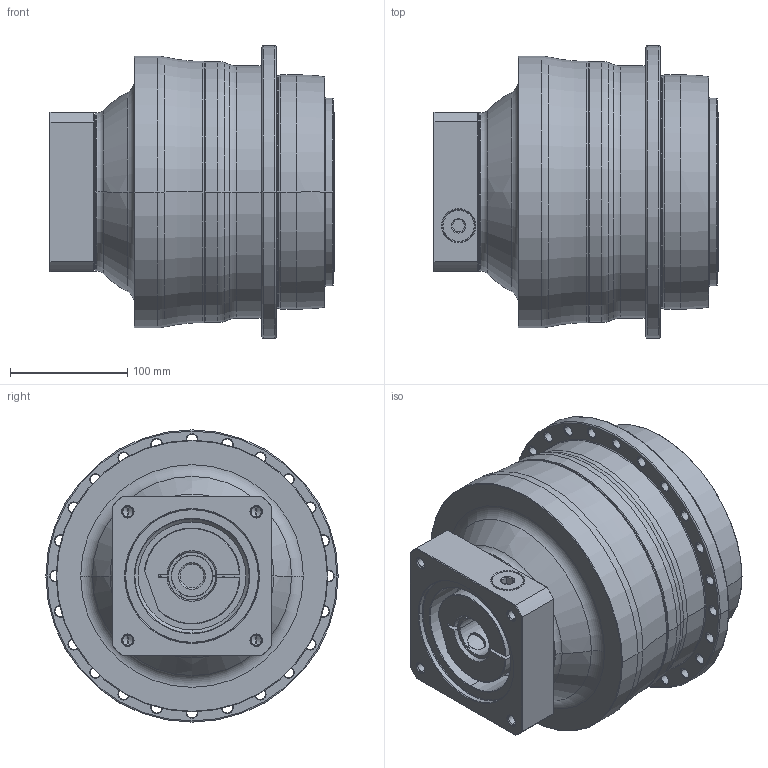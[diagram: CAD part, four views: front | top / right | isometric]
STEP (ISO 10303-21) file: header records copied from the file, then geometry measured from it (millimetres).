
FILE_DESCRIPTION((''),'2;1');
FILE_NAME('AP200_2ST_35-P0409800201_ASM','2018-05-29T',('d01226'),(''),'PRO/ENGINEER BY PARAMETRIC TECHNOLOGY CORPORATION, 2008410','PRO/ENGINEER BY PARAMETRIC TECHNOLOGY CORPORATION, 2008410','');
FILE_SCHEMA(('CONFIG_CONTROL_DESIGN'));
Length unit declared in the file: millimetre
Products named in the file (9): P0278601003; P0359601103; P1317610301; P0503800012; P0912503001; P1211600001; P0409800201; 21711422019; AP200_2ST_35-P0409800201_ASM
Assembly tree (8 placements, depth 2):
  AP200_2ST_35-P0409800201_ASM
    P0278601003
    P0359601103
    P1317610301
    P0503800012
    P0912503001
    P1211600001
    P0409800201
    21711422019
Bounding box: 243.5 x 249.5 x 249.5 mm (x, y, z)
Volume: 6814925.3 mm3; surface area: 550128.8 mm2
Topology: 9 solids, 34 shells, 651 faces, 1555 edges, 960 vertices
Faces by surface type: cylinder 272, cone 180, plane 109, torus 74, bspline 16
Entity records: 24042 total; most frequent: CARTESIAN_POINT 8134, DIRECTION 3659, ORIENTED_EDGE 2992, AXIS2_PLACEMENT_3D 1571, EDGE_CURVE 1547, VERTEX_POINT 960, CIRCLE 909, EDGE_LOOP 793
